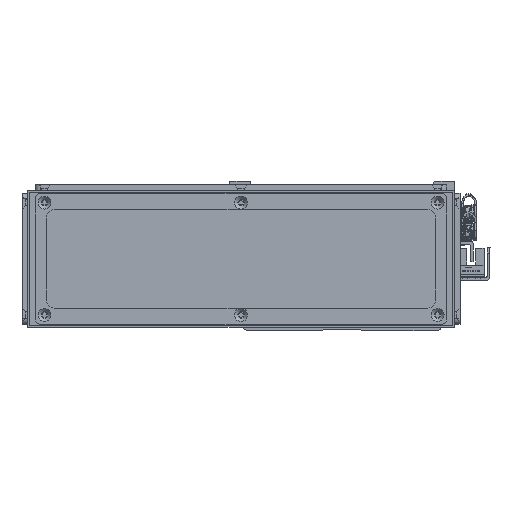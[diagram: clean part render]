
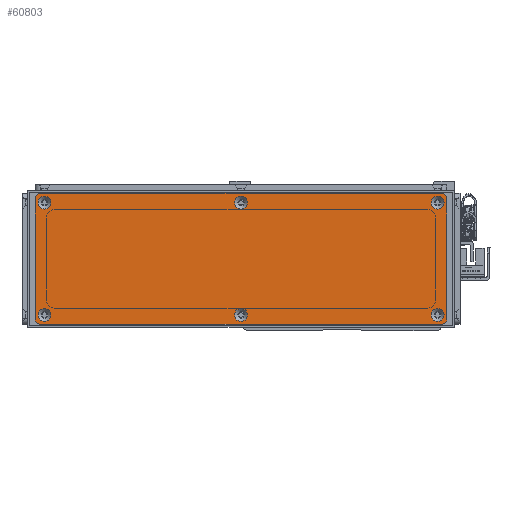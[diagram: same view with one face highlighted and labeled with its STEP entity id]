
A CAD part, front view. The second image highlights one B-rep face of the part: STEP entity #60803.
In plain terms, the highlighted planar face has unit normal (0, -1, 0).
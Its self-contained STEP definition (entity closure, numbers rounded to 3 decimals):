
#2848=FACE_BOUND('',#10741,.T.);
#2849=FACE_BOUND('',#10742,.T.);
#2850=FACE_BOUND('',#10743,.T.);
#2851=FACE_BOUND('',#10744,.T.);
#2852=FACE_BOUND('',#10745,.T.);
#2853=FACE_BOUND('',#10746,.T.);
#4260=CIRCLE('',#65646,3.45);
#4263=CIRCLE('',#65651,3.45);
#4266=CIRCLE('',#65656,3.45);
#4269=CIRCLE('',#65661,3.45);
#4272=CIRCLE('',#65666,3.45);
#4275=CIRCLE('',#65671,3.45);
#4278=CIRCLE('',#65676,3.);
#4280=CIRCLE('',#65679,3.);
#4281=CIRCLE('',#65680,3.);
#4282=CIRCLE('',#65681,3.);
#7257=FACE_OUTER_BOUND('',#10740,.T.);
#10740=EDGE_LOOP('',(#55123,#55124,#55125,#55126,#55127,#55128,#55129,#55130));
#10741=EDGE_LOOP('',(#55131));
#10742=EDGE_LOOP('',(#55132));
#10743=EDGE_LOOP('',(#55133));
#10744=EDGE_LOOP('',(#55134));
#10745=EDGE_LOOP('',(#55135));
#10746=EDGE_LOOP('',(#55136));
#17391=LINE('',#102535,#24073);
#17392=LINE('',#102539,#24074);
#17393=LINE('',#102543,#24075);
#17394=LINE('',#102546,#24076);
#24073=VECTOR('',#81120,10.);
#24074=VECTOR('',#81123,10.);
#24075=VECTOR('',#81126,10.);
#24076=VECTOR('',#81129,10.);
#29806=VERTEX_POINT('',#102465);
#29809=VERTEX_POINT('',#102475);
#29812=VERTEX_POINT('',#102485);
#29815=VERTEX_POINT('',#102495);
#29818=VERTEX_POINT('',#102505);
#29821=VERTEX_POINT('',#102515);
#29824=VERTEX_POINT('',#102525);
#29825=VERTEX_POINT('',#102526);
#29828=VERTEX_POINT('',#102534);
#29829=VERTEX_POINT('',#102536);
#29830=VERTEX_POINT('',#102538);
#29831=VERTEX_POINT('',#102540);
#29832=VERTEX_POINT('',#102542);
#29833=VERTEX_POINT('',#102544);
#38265=EDGE_CURVE('',#29806,#29806,#4260,.T.);
#38270=EDGE_CURVE('',#29809,#29809,#4263,.T.);
#38275=EDGE_CURVE('',#29812,#29812,#4266,.T.);
#38280=EDGE_CURVE('',#29815,#29815,#4269,.T.);
#38285=EDGE_CURVE('',#29818,#29818,#4272,.T.);
#38290=EDGE_CURVE('',#29821,#29821,#4275,.T.);
#38295=EDGE_CURVE('',#29824,#29825,#4278,.T.);
#38299=EDGE_CURVE('',#29824,#29828,#17391,.T.);
#38300=EDGE_CURVE('',#29829,#29828,#4280,.T.);
#38301=EDGE_CURVE('',#29829,#29830,#17392,.T.);
#38302=EDGE_CURVE('',#29831,#29830,#4281,.T.);
#38303=EDGE_CURVE('',#29831,#29832,#17393,.T.);
#38304=EDGE_CURVE('',#29833,#29832,#4282,.T.);
#38305=EDGE_CURVE('',#29833,#29825,#17394,.T.);
#55123=ORIENTED_EDGE('',*,*,#38295,.F.);
#55124=ORIENTED_EDGE('',*,*,#38299,.T.);
#55125=ORIENTED_EDGE('',*,*,#38300,.F.);
#55126=ORIENTED_EDGE('',*,*,#38301,.T.);
#55127=ORIENTED_EDGE('',*,*,#38302,.F.);
#55128=ORIENTED_EDGE('',*,*,#38303,.T.);
#55129=ORIENTED_EDGE('',*,*,#38304,.F.);
#55130=ORIENTED_EDGE('',*,*,#38305,.T.);
#55131=ORIENTED_EDGE('',*,*,#38265,.T.);
#55132=ORIENTED_EDGE('',*,*,#38270,.T.);
#55133=ORIENTED_EDGE('',*,*,#38275,.T.);
#55134=ORIENTED_EDGE('',*,*,#38280,.T.);
#55135=ORIENTED_EDGE('',*,*,#38285,.T.);
#55136=ORIENTED_EDGE('',*,*,#38290,.T.);
#57849=PLANE('',#65678);
#60803=ADVANCED_FACE('',(#7257,#2848,#2849,#2850,#2851,#2852,#2853),#57849,
 .T.);
#65646=AXIS2_PLACEMENT_3D('',#102466,#81040,#81041);
#65651=AXIS2_PLACEMENT_3D('',#102476,#81052,#81053);
#65656=AXIS2_PLACEMENT_3D('',#102486,#81064,#81065);
#65661=AXIS2_PLACEMENT_3D('',#102496,#81076,#81077);
#65666=AXIS2_PLACEMENT_3D('',#102506,#81088,#81089);
#65671=AXIS2_PLACEMENT_3D('',#102516,#81100,#81101);
#65676=AXIS2_PLACEMENT_3D('',#102527,#81112,#81113);
#65678=AXIS2_PLACEMENT_3D('',#102533,#81118,#81119);
#65679=AXIS2_PLACEMENT_3D('',#102537,#81121,#81122);
#65680=AXIS2_PLACEMENT_3D('',#102541,#81124,#81125);
#65681=AXIS2_PLACEMENT_3D('',#102545,#81127,#81128);
#81040=DIRECTION('center_axis',(0.,1.,0.));
#81041=DIRECTION('ref_axis',(1.,0.,0.));
#81052=DIRECTION('center_axis',(0.,1.,0.));
#81053=DIRECTION('ref_axis',(1.,0.,0.));
#81064=DIRECTION('center_axis',(0.,1.,0.));
#81065=DIRECTION('ref_axis',(1.,0.,0.));
#81076=DIRECTION('center_axis',(0.,1.,0.));
#81077=DIRECTION('ref_axis',(1.,0.,0.));
#81088=DIRECTION('center_axis',(0.,1.,0.));
#81089=DIRECTION('ref_axis',(1.,0.,0.));
#81100=DIRECTION('center_axis',(0.,1.,0.));
#81101=DIRECTION('ref_axis',(1.,0.,0.));
#81112=DIRECTION('center_axis',(0.,1.,0.));
#81113=DIRECTION('ref_axis',(-0.707,0.,0.707));
#81118=DIRECTION('center_axis',(0.,-1.,0.));
#81119=DIRECTION('ref_axis',(0.,0.,-1.));
#81120=DIRECTION('',(0.,0.,-1.));
#81121=DIRECTION('center_axis',(0.,1.,0.));
#81122=DIRECTION('ref_axis',(-0.707,0.,-0.707));
#81123=DIRECTION('',(1.,0.,0.));
#81124=DIRECTION('center_axis',(0.,1.,0.));
#81125=DIRECTION('ref_axis',(0.707,0.,-0.707));
#81126=DIRECTION('',(0.,0.,1.));
#81127=DIRECTION('center_axis',(0.,1.,0.));
#81128=DIRECTION('ref_axis',(0.707,0.,0.707));
#81129=DIRECTION('',(-1.,0.,0.));
#102465=CARTESIAN_POINT('',(101.55,-1.5,30.));
#102466=CARTESIAN_POINT('Origin',(105.,-1.5,30.));
#102475=CARTESIAN_POINT('',(-3.45,-1.5,-30.));
#102476=CARTESIAN_POINT('Origin',(0.,-1.5,-30.));
#102485=CARTESIAN_POINT('',(-108.45,-1.5,30.));
#102486=CARTESIAN_POINT('Origin',(-105.,-1.5,30.));
#102495=CARTESIAN_POINT('',(-108.45,-1.5,-30.));
#102496=CARTESIAN_POINT('Origin',(-105.,-1.5,-30.));
#102505=CARTESIAN_POINT('',(-3.45,-1.5,30.));
#102506=CARTESIAN_POINT('Origin',(0.,-1.5,30.));
#102515=CARTESIAN_POINT('',(101.55,-1.5,-30.));
#102516=CARTESIAN_POINT('Origin',(105.,-1.5,-30.));
#102525=CARTESIAN_POINT('',(-110.,-1.5,32.));
#102526=CARTESIAN_POINT('',(-107.,-1.5,35.));
#102527=CARTESIAN_POINT('Origin',(-107.,-1.5,32.));
#102533=CARTESIAN_POINT('Origin',(0.,-1.5,0.));
#102534=CARTESIAN_POINT('',(-110.,-1.5,-32.));
#102535=CARTESIAN_POINT('',(-110.,-1.5,35.));
#102536=CARTESIAN_POINT('',(-107.,-1.5,-35.));
#102537=CARTESIAN_POINT('Origin',(-107.,-1.5,-32.));
#102538=CARTESIAN_POINT('',(107.,-1.5,-35.));
#102539=CARTESIAN_POINT('',(-110.,-1.5,-35.));
#102540=CARTESIAN_POINT('',(110.,-1.5,-32.));
#102541=CARTESIAN_POINT('Origin',(107.,-1.5,-32.));
#102542=CARTESIAN_POINT('',(110.,-1.5,32.));
#102543=CARTESIAN_POINT('',(110.,-1.5,-35.));
#102544=CARTESIAN_POINT('',(107.,-1.5,35.));
#102545=CARTESIAN_POINT('Origin',(107.,-1.5,32.));
#102546=CARTESIAN_POINT('',(110.,-1.5,35.));
